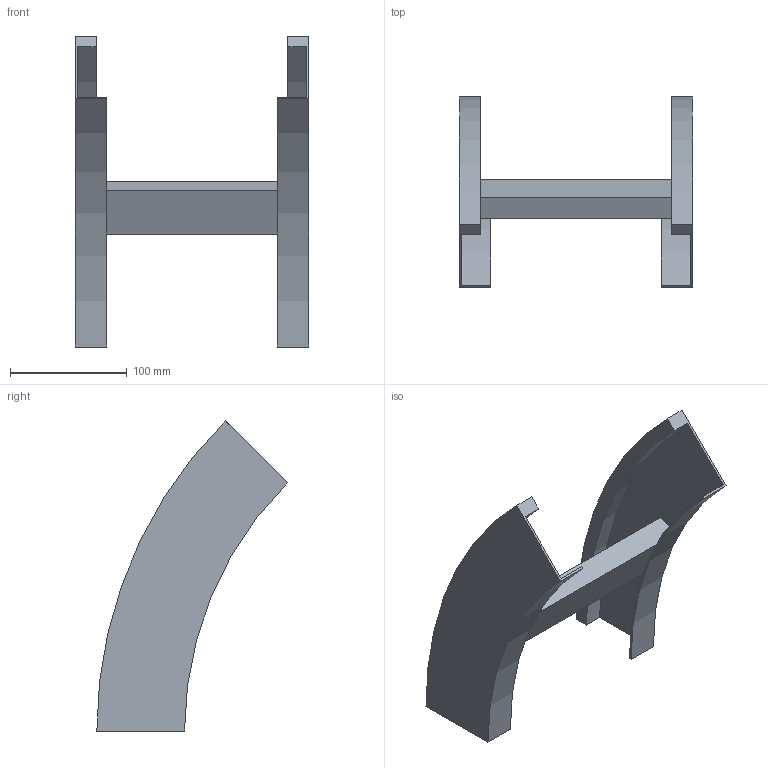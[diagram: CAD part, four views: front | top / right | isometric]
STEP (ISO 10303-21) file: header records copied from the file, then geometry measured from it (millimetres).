
FILE_DESCRIPTION (( 'STEP AP214' ), '1' );
FILE_NAME ('B2_34B3C200.step', '2025-02-21T14:55:23', ( '' ), ( '' ), 'SwSTEP 2.0', 'SolidWorks 2023', '' );
FILE_SCHEMA (( 'AUTOMOTIVE_DESIGN' ));
Length unit declared in the file: millimetre
Products named in the file (3): B2_LONGH.DISCESA_45°_H75_R300; TRAVERSINO_200; B2_34B3C200
Assembly tree (3 placements, depth 2):
  B2_34B3C200
    B2_LONGH.DISCESA_45°_H75_R300  x2
    TRAVERSINO_200
Bounding box: 200 x 162.87 x 265.17 mm (x, y, z)
Volume: 373209.8 mm3; surface area: 150734.6 mm2
Topology: 3 solids, 3 shells, 26 faces, 60 edges, 40 vertices
Faces by surface type: plane 18, cylinder 8
Entity records: 544 total; most frequent: DIRECTION 88, CARTESIAN_POINT 82, ORIENTED_EDGE 72, EDGE_CURVE 36, AXIS2_PLACEMENT_3D 30, LINE 28, VECTOR 28, VERTEX_POINT 24
